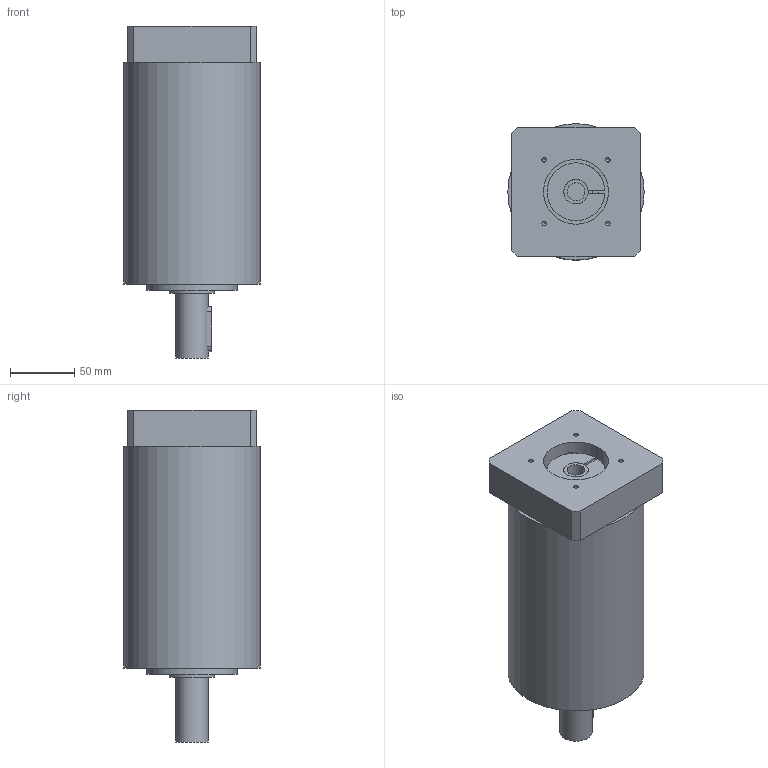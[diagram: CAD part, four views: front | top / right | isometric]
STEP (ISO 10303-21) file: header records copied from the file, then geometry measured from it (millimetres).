
FILE_DESCRIPTION(/* description */ (''),/* implementation_level */ '2;1');
FILE_NAME(/* name */ 'X_MP 105 3 280 STD 50C1 CD 14 S1 OR SB KE.stp',/* time_stamp */ '2018-10-10T09:22:27+02:00',/* author */ (''),/* organization */ (''),/* preprocessor_version */ 'ST-DEVELOPER v16',/* originating_system */ 'SIEMENS PLM Software NX 11.0',/* authorisation */ '');
FILE_SCHEMA (('AP203_CONFIGURATION_CONTROLLED_3D_DESIGN_OF_MECHANICAL_PARTS_AND_ASSEMBLIES_MIM_LF { 1 0 10303 403 2 1 2}'));
Length unit declared in the file: millimetre
Products named in the file (8): 712410014_--LINGUETTA 8X7X35 A TS_00019 T-20; 611300820_A-BOCCOLA X CUSC MP-TR105 USCITA S; 610004609_A-ALBERO LENTO MP-TR105 I_4 CON LI; 612303624_B-CASSA MP-TR105 3 STADI; 610009385_A-ALB VEL PER MORSET MP-TR105 D14; 615070001_B-MORSETTO A20 D.14 _ALLUMINIO_; 614200772_B-FLANGIA PAM MP-TR105 50-70 H28; 075783_01-X_MP 105 3 280 STD 50C1 CD 14 S1 OR SB KE
Assembly tree (7 placements, depth 2):
  075783_01-X_MP 105 3 280 STD 50C1 CD 14 S1 OR SB KE
    614200772_B-FLANGIA PAM MP-TR105 50-70 H28
    615070001_B-MORSETTO A20 D.14 _ALLUMINIO_
    610009385_A-ALB VEL PER MORSET MP-TR105 D14
    612303624_B-CASSA MP-TR105 3 STADI
    610004609_A-ALBERO LENTO MP-TR105 I_4 CON LI
    611300820_A-BOCCOLA X CUSC MP-TR105 USCITA S
    712410014_--LINGUETTA 8X7X35 A TS_00019 T-20
Bounding box: 105.99 x 105.99 x 258 mm (x, y, z)
Volume: 1812034.6 mm3; surface area: 157261.7 mm2
Topology: 7 solids, 7 shells, 85 faces, 178 edges, 119 vertices
Faces by surface type: plane 40, cylinder 37, cone 8
Full cylindrical faces by diameter (mm): 3.432 x4, 6 x4, 8 x4, 10.5 x1, 13.75 x1, 14 x1, 19 x1, 25 x2, 33 x1, 35 x3, 50.5 x1, 70 x1, 98 x2, 106 x1
Entity records: 2983 total; most frequent: DIRECTION 388, CARTESIAN_POINT 372, ORIENTED_EDGE 258, AXIS2_PLACEMENT_3D 169, EDGE_LOOP 142, EDGE_CURVE 129, FACE_BOUND 106, VERTEX_POINT 105
